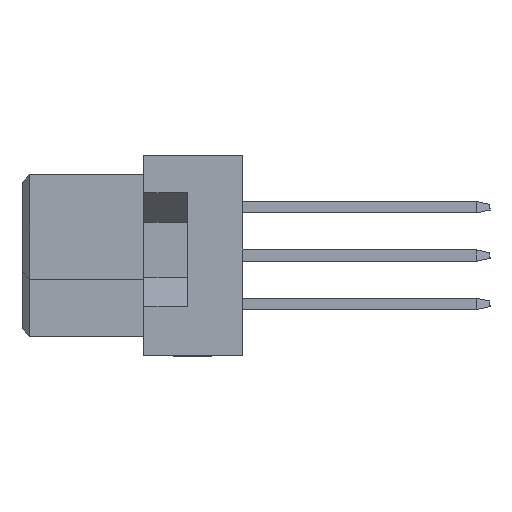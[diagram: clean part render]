
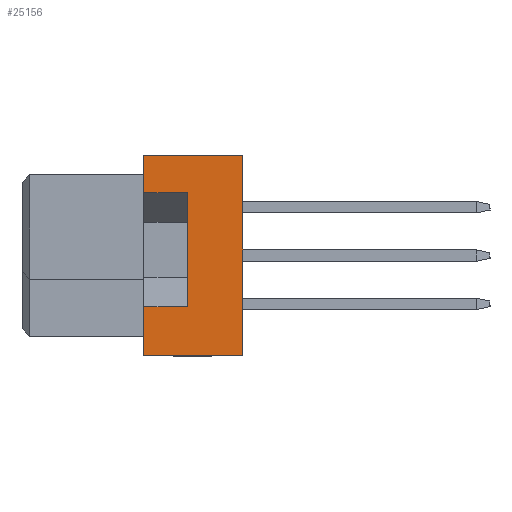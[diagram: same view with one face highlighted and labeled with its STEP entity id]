
A CAD part, left-side view. The second image highlights one B-rep face of the part: STEP entity #25156.
In plain terms, the highlighted planar face has unit normal (-1, 0, 0).
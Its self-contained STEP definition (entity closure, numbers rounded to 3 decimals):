
#14472 = ORIENTED_EDGE ( 'NONE', *, *, #25313, .F. ) ;
#14473 = ORIENTED_EDGE ( 'NONE', *, *, #41260, .F. ) ;
#14474 = ORIENTED_EDGE ( 'NONE', *, *, #41246, .F. ) ;
#14475 = ORIENTED_EDGE ( 'NONE', *, *, #41241, .F. ) ;
#14476 = ORIENTED_EDGE ( 'NONE', *, *, #25320, .F. ) ;
#14477 = ORIENTED_EDGE ( 'NONE', *, *, #25323, .T. ) ;
#14478 = ORIENTED_EDGE ( 'NONE', *, *, #25326, .T. ) ;
#14479 = ORIENTED_EDGE ( 'NONE', *, *, #25328, .F. ) ;
#18426 = LINE ( 'NONE', #18433, #18982 ) ;
#18433 = CARTESIAN_POINT ( 'NONE',  ( -45.351, -27.01, -2.675 ) ) ;
#18434 = DIRECTION ( 'NONE',  ( 0., -1., 0. ) ) ;
#18438 = LINE ( 'NONE', #18439, #18988 ) ;
#18439 = CARTESIAN_POINT ( 'NONE',  ( -45.351, -24.11, 5.275 ) ) ;
#18440 = DIRECTION ( 'NONE',  ( 0., 0., 1. ) ) ;
#18444 = CARTESIAN_POINT ( 'NONE',  ( -45.351, -27.01, 3.325 ) ) ;
#18445 = LINE ( 'NONE', #18444, #18996 ) ;
#18454 = DIRECTION ( 'NONE',  ( 0., 1., 0. ) ) ;
#18982 = VECTOR ( 'NONE', #18434, 1000. ) ;
#18988 = VECTOR ( 'NONE', #18440, 1000. ) ;
#18996 = VECTOR ( 'NONE', #18454, 1000. ) ;
#25156 = ADVANCED_FACE ( 'NONE', ( #44024 ), #44026, .F. ) ;
#25313 = EDGE_CURVE ( 'NONE', #49354, #49146, #45005, .T. ) ;
#25320 = EDGE_CURVE ( 'NONE', #49174, #49442, #45029, .T. ) ;
#25323 = EDGE_CURVE ( 'NONE', #49174, #49138, #45037, .T. ) ;
#25326 = EDGE_CURVE ( 'NONE', #49138, #49134, #45045, .T. ) ;
#25328 = EDGE_CURVE ( 'NONE', #49146, #49134, #45053, .T. ) ;
#40762 = AXIS2_PLACEMENT_3D ( 'NONE', #44027, #44028, #44029 ) ;
#40854 = VECTOR ( 'NONE', #45007, 1000. ) ;
#40860 = VECTOR ( 'NONE', #45031, 1000. ) ;
#40862 = VECTOR ( 'NONE', #45039, 1000. ) ;
#40864 = VECTOR ( 'NONE', #45047, 1000. ) ;
#40866 = VECTOR ( 'NONE', #45055, 1000. ) ;
#41241 = EDGE_CURVE ( 'NONE', #49442, #49362, #18426, .T. ) ;
#41246 = EDGE_CURVE ( 'NONE', #49362, #49370, #18438, .T. ) ;
#41260 = EDGE_CURVE ( 'NONE', #49370, #49354, #18445, .T. ) ;
#44024 = FACE_OUTER_BOUND ( 'NONE', #53605, .T. ) ;
#44026 = PLANE ( 'NONE',  #40762 ) ;
#44027 = CARTESIAN_POINT ( 'NONE',  ( -45.351, -27.01, 5.275 ) ) ;
#44028 = DIRECTION ( 'NONE',  ( 1., 0., 0. ) ) ;
#44029 = DIRECTION ( 'NONE',  ( 0., 0., -1. ) ) ;
#45005 = LINE ( 'NONE', #45006, #40854 ) ;
#45006 = CARTESIAN_POINT ( 'NONE',  ( -45.351, -21.81, 5.275 ) ) ;
#45007 = DIRECTION ( 'NONE',  ( 0., 0., 1. ) ) ;
#45029 = LINE ( 'NONE', #45030, #40860 ) ;
#45030 = CARTESIAN_POINT ( 'NONE',  ( -45.351, -21.81, 5.275 ) ) ;
#45031 = DIRECTION ( 'NONE',  ( 0., 0., 1. ) ) ;
#45037 = LINE ( 'NONE', #45038, #40862 ) ;
#45038 = CARTESIAN_POINT ( 'NONE',  ( -45.351, -27.01, -5.225 ) ) ;
#45039 = DIRECTION ( 'NONE',  ( 0., -1., 0. ) ) ;
#45045 = LINE ( 'NONE', #45046, #40864 ) ;
#45046 = CARTESIAN_POINT ( 'NONE',  ( -45.351, -27.01, -5.225 ) ) ;
#45047 = DIRECTION ( 'NONE',  ( 0., 0., 1. ) ) ;
#45053 = LINE ( 'NONE', #45054, #40866 ) ;
#45054 = CARTESIAN_POINT ( 'NONE',  ( -45.351, -27.01, 5.275 ) ) ;
#45055 = DIRECTION ( 'NONE',  ( 0., -1., 0. ) ) ;
#49134 = VERTEX_POINT ( 'NONE', #51479 ) ;
#49138 = VERTEX_POINT ( 'NONE', #51481 ) ;
#49146 = VERTEX_POINT ( 'NONE', #51485 ) ;
#49174 = VERTEX_POINT ( 'NONE', #51499 ) ;
#49354 = VERTEX_POINT ( 'NONE', #51589 ) ;
#49362 = VERTEX_POINT ( 'NONE', #51593 ) ;
#49370 = VERTEX_POINT ( 'NONE', #51597 ) ;
#49442 = VERTEX_POINT ( 'NONE', #51633 ) ;
#51479 = CARTESIAN_POINT ( 'NONE',  ( -45.351, -27.01, 5.275 ) ) ;
#51481 = CARTESIAN_POINT ( 'NONE',  ( -45.351, -27.01, -5.225 ) ) ;
#51485 = CARTESIAN_POINT ( 'NONE',  ( -45.351, -21.81, 5.275 ) ) ;
#51499 = CARTESIAN_POINT ( 'NONE',  ( -45.351, -21.81, -5.225 ) ) ;
#51589 = CARTESIAN_POINT ( 'NONE',  ( -45.351, -21.81, 3.325 ) ) ;
#51593 = CARTESIAN_POINT ( 'NONE',  ( -45.351, -24.11, -2.675 ) ) ;
#51597 = CARTESIAN_POINT ( 'NONE',  ( -45.351, -24.11, 3.325 ) ) ;
#51633 = CARTESIAN_POINT ( 'NONE',  ( -45.351, -21.81, -2.675 ) ) ;
#53605 = EDGE_LOOP ( 'NONE', ( #14472, #14473, #14474, #14475, #14476, #14477, #14478, #14479 ) ) ;
